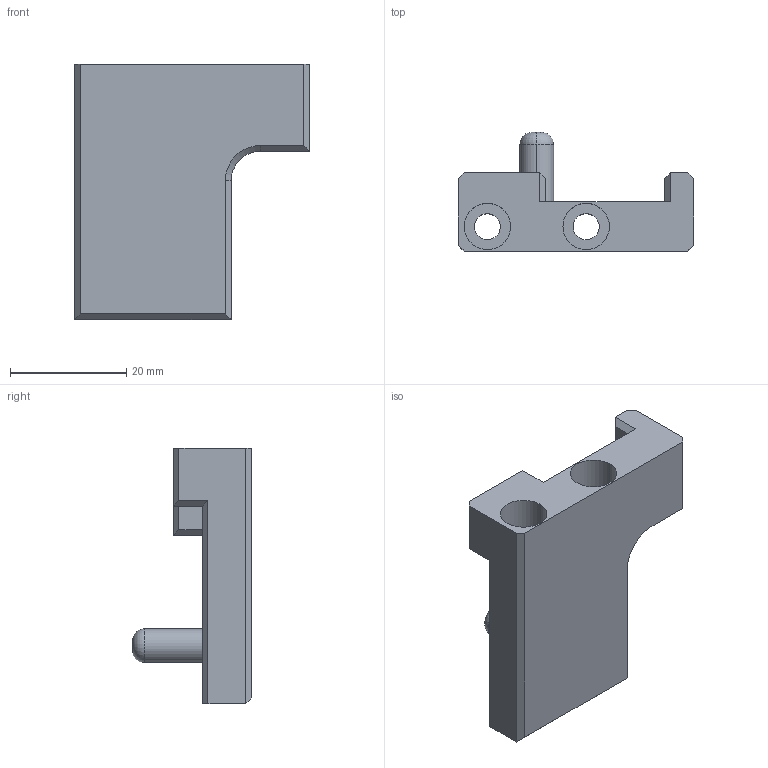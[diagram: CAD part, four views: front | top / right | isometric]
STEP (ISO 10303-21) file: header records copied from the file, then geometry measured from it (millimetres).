
FILE_DESCRIPTION (( 'STEP AP214' ), '1' );
FILE_NAME ('GZ26.04_V2定位座.STEP', '2021-04-23T03:22:36', ( '微软中国' ), ( 'Microsoft' ), 'SwSTEP 2.0', 'SolidWorks 2017', '' );
FILE_SCHEMA (( 'AUTOMOTIVE_DESIGN' ));
Length unit declared in the file: millimetre
Products named in the file (1): GZ26.04_V2隅弇釱
Bounding box: 40.5 x 20.5 x 44 mm (x, y, z)
Volume: 10798.1 mm3; surface area: 6187.1 mm2
Topology: 1 solids, 1 shells, 48 faces, 113 edges, 70 vertices
Faces by surface type: plane 33, cylinder 11, torus 2, cone 2
Entity records: 1399 total; most frequent: DIRECTION 239, CARTESIAN_POINT 232, ORIENTED_EDGE 226, EDGE_CURVE 113, VECTOR 85, LINE 85, AXIS2_PLACEMENT_3D 77, VERTEX_POINT 70
